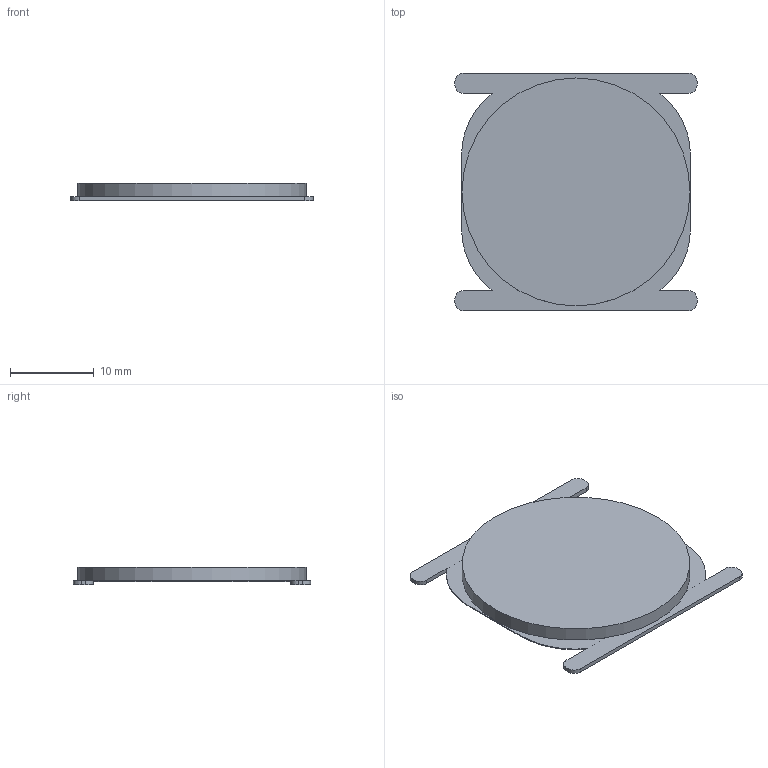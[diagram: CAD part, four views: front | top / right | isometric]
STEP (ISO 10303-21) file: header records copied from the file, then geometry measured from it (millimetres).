
FILE_DESCRIPTION(/* description */ (''),/* implementation_level */ '2;1');
FILE_NAME(/* name */ 'C28_R3_Front_Action_Carrier_Replaceable_Contact.step',/* time_stamp */ '2026-09-10T17:48:21-07:00',/* author */ (''),/* organization */ (''),/* preprocessor_version */ 'ST-DEVELOPER v20.1',/* originating_system */ 'Autodesk Translation Framework v15.8.0.0',/* authorisation */ '');
FILE_SCHEMA (('AUTOMOTIVE_DESIGN { 1 0 10303 214 3 1 1 }'));
Length unit declared in the file: millimetre
Products named in the file (1): 2026-09-10-17-48-21-543
Bounding box: 29 x 28.4 x 2.15 mm (x, y, z)
Volume: 1096 mm3; surface area: 1706.5 mm2
Topology: 1 solids, 1 shells, 30 faces, 78 edges, 52 vertices
Faces by surface type: plane 16, cylinder 14
Full cylindrical faces by diameter (mm): 5.2 x1, 27.3 x1
Entity records: 963 total; most frequent: DIRECTION 168, CARTESIAN_POINT 161, ORIENTED_EDGE 156, EDGE_CURVE 78, AXIS2_PLACEMENT_3D 59, VERTEX_POINT 52, LINE 50, VECTOR 50
